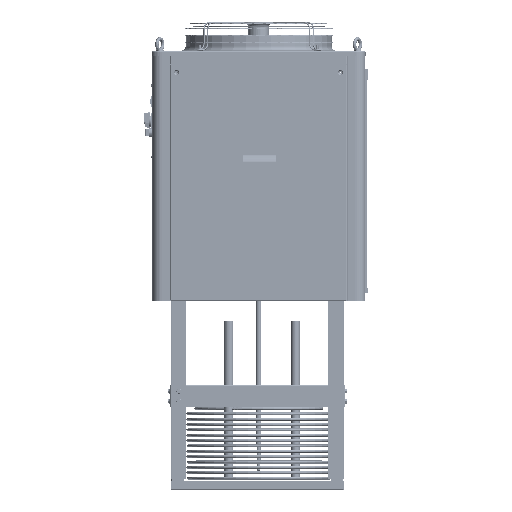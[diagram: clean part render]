
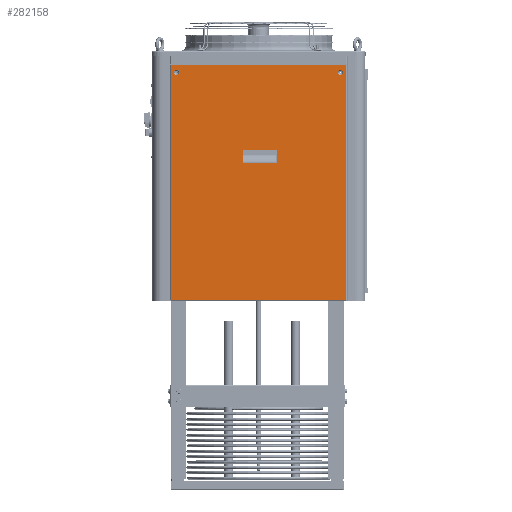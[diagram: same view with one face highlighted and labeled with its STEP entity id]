
A CAD part, front view. The second image highlights one B-rep face of the part: STEP entity #282158.
In plain terms, the highlighted planar face has unit normal (0, -1, 0) as drawn and (0, 0, 1) by its records, which use the part's own axes.
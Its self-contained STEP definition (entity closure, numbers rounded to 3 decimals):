
#5254 = ORIENTED_EDGE ( 'NONE', *, *, #384456, .T. ) ;
#5672 = EDGE_LOOP ( 'NONE', ( #391678, #382940 ) ) ;
#8482 = ORIENTED_EDGE ( 'NONE', *, *, #174589, .F. ) ;
#20806 = ORIENTED_EDGE ( 'NONE', *, *, #174516, .T. ) ;
#24127 = CARTESIAN_POINT ( 'NONE',  ( -260.6, -350.15, 0. ) ) ;
#27291 = LINE ( 'NONE', #310593, #385380 ) ;
#29100 = EDGE_LOOP ( 'NONE', ( #187460, #241871, #398977, #8482 ) ) ;
#30503 = CARTESIAN_POINT ( 'NONE',  ( 48.274, -95.15, 0. ) ) ;
#37624 = CARTESIAN_POINT ( 'NONE',  ( -279.3, 375.15, 0. ) ) ;
#41563 = CIRCLE ( 'NONE', #277783, 8.556 ) ;
#41833 = CIRCLE ( 'NONE', #278018, 8.556 ) ;
#41863 = CARTESIAN_POINT ( 'NONE',  ( -56.726, -95.15, 0. ) ) ;
#44473 = DIRECTION ( 'NONE',  ( 0., 0., -1. ) ) ;
#45422 = DIRECTION ( 'NONE',  ( -1., 0., 0. ) ) ;
#52381 = CIRCLE ( 'NONE', #390023, 8.556 ) ;
#58184 = CARTESIAN_POINT ( 'NONE',  ( 48.274, 0., 0. ) ) ;
#58496 = VERTEX_POINT ( 'NONE', #418122 ) ;
#58600 = EDGE_CURVE ( 'NONE', #317203, #63303, #398947, .T. ) ;
#59132 = CARTESIAN_POINT ( 'NONE',  ( -260.6, -350.15, 0. ) ) ;
#61595 = ORIENTED_EDGE ( 'NONE', *, *, #115325, .T. ) ;
#63303 = VERTEX_POINT ( 'NONE', #276688 ) ;
#65401 = EDGE_LOOP ( 'NONE', ( #5254, #61595 ) ) ;
#81595 = CARTESIAN_POINT ( 'NONE',  ( -279.3, 373.65, 0. ) ) ;
#84087 = VECTOR ( 'NONE', #349710, 1000. ) ;
#85992 = DIRECTION ( 'NONE',  ( 1., 0., 0. ) ) ;
#96074 = AXIS2_PLACEMENT_3D ( 'NONE', #155826, #284752, #384025 ) ;
#100809 = EDGE_LOOP ( 'NONE', ( #127271, #227752, #20806, #195721 ) ) ;
#115325 = EDGE_CURVE ( 'NONE', #130624, #292406, #130280, .T. ) ;
#116184 = CARTESIAN_POINT ( 'NONE',  ( 260.6, -350.15, 0. ) ) ;
#117518 = EDGE_CURVE ( 'NONE', #129207, #317203, #408955, .T. ) ;
#122699 = CARTESIAN_POINT ( 'NONE',  ( -56.726, -64.95, 0. ) ) ;
#123325 = AXIS2_PLACEMENT_3D ( 'NONE', #116184, #44473, #147861 ) ;
#127271 = ORIENTED_EDGE ( 'NONE', *, *, #58600, .T. ) ;
#129207 = VERTEX_POINT ( 'NONE', #238865 ) ;
#130280 = CIRCLE ( 'NONE', #123325, 8.556 ) ;
#130624 = VERTEX_POINT ( 'NONE', #139122 ) ;
#133513 = EDGE_CURVE ( 'NONE', #245075, #350559, #413247, .T. ) ;
#139122 = CARTESIAN_POINT ( 'NONE',  ( 260.6, -341.594, 0. ) ) ;
#146760 = LINE ( 'NONE', #170191, #234777 ) ;
#147861 = DIRECTION ( 'NONE',  ( 0., -1., 0. ) ) ;
#148529 = VECTOR ( 'NONE', #85992, 1000. ) ;
#155826 = CARTESIAN_POINT ( 'NONE',  ( 0., 0., 0. ) ) ;
#157908 = FACE_BOUND ( 'NONE', #5672, .T. ) ;
#160991 = CARTESIAN_POINT ( 'NONE',  ( 260.6, -350.15, 0. ) ) ;
#161375 = DIRECTION ( 'NONE',  ( 0., 0., -1. ) ) ;
#162485 = DIRECTION ( 'NONE',  ( 0., 1., 0. ) ) ;
#162742 = VECTOR ( 'NONE', #418229, 1000. ) ;
#170191 = CARTESIAN_POINT ( 'NONE',  ( 0., -64.95, 0. ) ) ;
#173627 = EDGE_CURVE ( 'NONE', #63303, #305645, #316250, .T. ) ;
#174516 = EDGE_CURVE ( 'NONE', #305645, #129207, #27291, .T. ) ;
#174589 = EDGE_CURVE ( 'NONE', #242041, #245075, #225916, .T. ) ;
#186449 = CARTESIAN_POINT ( 'NONE',  ( 260.6, -358.706, 0. ) ) ;
#187460 = ORIENTED_EDGE ( 'NONE', *, *, #400337, .F. ) ;
#187584 = FACE_BOUND ( 'NONE', #29100, .T. ) ;
#195721 = ORIENTED_EDGE ( 'NONE', *, *, #117518, .T. ) ;
#206784 = VECTOR ( 'NONE', #236237, 1000. ) ;
#221348 = FACE_BOUND ( 'NONE', #65401, .T. ) ;
#225897 = DIRECTION ( 'NONE',  ( 0., -1., 0. ) ) ;
#225916 = LINE ( 'NONE', #261816, #162742 ) ;
#227752 = ORIENTED_EDGE ( 'NONE', *, *, #173627, .T. ) ;
#234777 = VECTOR ( 'NONE', #45422, 1000. ) ;
#236237 = DIRECTION ( 'NONE',  ( 0., -1., 0. ) ) ;
#238865 = CARTESIAN_POINT ( 'NONE',  ( 279.3, 373.65, 0. ) ) ;
#241871 = ORIENTED_EDGE ( 'NONE', *, *, #342457, .F. ) ;
#242041 = VERTEX_POINT ( 'NONE', #41863 ) ;
#245075 = VERTEX_POINT ( 'NONE', #30503 ) ;
#246770 = EDGE_CURVE ( 'NONE', #354864, #58496, #52381, .T. ) ;
#251412 = VECTOR ( 'NONE', #286363, 1000. ) ;
#252333 = DIRECTION ( 'NONE',  ( 0., -1., 0. ) ) ;
#261816 = CARTESIAN_POINT ( 'NONE',  ( 0., -95.15, 0. ) ) ;
#265252 = CARTESIAN_POINT ( 'NONE',  ( 48.274, -64.95, 0. ) ) ;
#276688 = CARTESIAN_POINT ( 'NONE',  ( -279.3, -373.65, 0. ) ) ;
#277783 = AXIS2_PLACEMENT_3D ( 'NONE', #160991, #329987, #355441 ) ;
#278018 = AXIS2_PLACEMENT_3D ( 'NONE', #59132, #285253, #416268 ) ;
#280928 = VECTOR ( 'NONE', #225897, 1000. ) ;
#281673 = EDGE_CURVE ( 'NONE', #58496, #354864, #41833, .T. ) ;
#282158 = ADVANCED_FACE ( 'NONE', ( #187584, #157908, #221348, #350273 ), #415769, .T. ) ;
#284752 = DIRECTION ( 'NONE',  ( 0., 0., 1. ) ) ;
#285253 = DIRECTION ( 'NONE',  ( 0., 0., -1. ) ) ;
#286363 = DIRECTION ( 'NONE',  ( 0., 1., 0. ) ) ;
#292406 = VERTEX_POINT ( 'NONE', #186449 ) ;
#305645 = VERTEX_POINT ( 'NONE', #330181 ) ;
#310593 = CARTESIAN_POINT ( 'NONE',  ( 279.3, -375.15, 0. ) ) ;
#316250 = LINE ( 'NONE', #377610, #148529 ) ;
#317203 = VERTEX_POINT ( 'NONE', #81595 ) ;
#318358 = VERTEX_POINT ( 'NONE', #122699 ) ;
#323155 = CARTESIAN_POINT ( 'NONE',  ( -260.6, -358.706, 0. ) ) ;
#327284 = CARTESIAN_POINT ( 'NONE',  ( -56.726, 0., 0. ) ) ;
#329987 = DIRECTION ( 'NONE',  ( 0., 0., -1. ) ) ;
#330181 = CARTESIAN_POINT ( 'NONE',  ( 279.3, -373.65, 0. ) ) ;
#342457 = EDGE_CURVE ( 'NONE', #350559, #318358, #146760, .T. ) ;
#349710 = DIRECTION ( 'NONE',  ( -1., 0., 0. ) ) ;
#350273 = FACE_OUTER_BOUND ( 'NONE', #100809, .T. ) ;
#350559 = VERTEX_POINT ( 'NONE', #265252 ) ;
#354864 = VERTEX_POINT ( 'NONE', #323155 ) ;
#355441 = DIRECTION ( 'NONE',  ( 0., -1., 0. ) ) ;
#377230 = CARTESIAN_POINT ( 'NONE',  ( 279.3, 373.65, 0. ) ) ;
#377610 = CARTESIAN_POINT ( 'NONE',  ( -279.3, -373.65, 0. ) ) ;
#382940 = ORIENTED_EDGE ( 'NONE', *, *, #281673, .T. ) ;
#384025 = DIRECTION ( 'NONE',  ( 1., 0., 0. ) ) ;
#384456 = EDGE_CURVE ( 'NONE', #292406, #130624, #41563, .T. ) ;
#385380 = VECTOR ( 'NONE', #162485, 1000. ) ;
#386501 = LINE ( 'NONE', #327284, #280928 ) ;
#390023 = AXIS2_PLACEMENT_3D ( 'NONE', #24127, #161375, #252333 ) ;
#391678 = ORIENTED_EDGE ( 'NONE', *, *, #246770, .T. ) ;
#398947 = LINE ( 'NONE', #37624, #206784 ) ;
#398977 = ORIENTED_EDGE ( 'NONE', *, *, #133513, .F. ) ;
#400337 = EDGE_CURVE ( 'NONE', #318358, #242041, #386501, .T. ) ;
#408955 = LINE ( 'NONE', #377230, #84087 ) ;
#413247 = LINE ( 'NONE', #58184, #251412 ) ;
#415769 = PLANE ( 'NONE',  #96074 ) ;
#416268 = DIRECTION ( 'NONE',  ( 0., -1., 0. ) ) ;
#418122 = CARTESIAN_POINT ( 'NONE',  ( -260.6, -341.594, 0. ) ) ;
#418229 = DIRECTION ( 'NONE',  ( 1., 0., 0. ) ) ;
